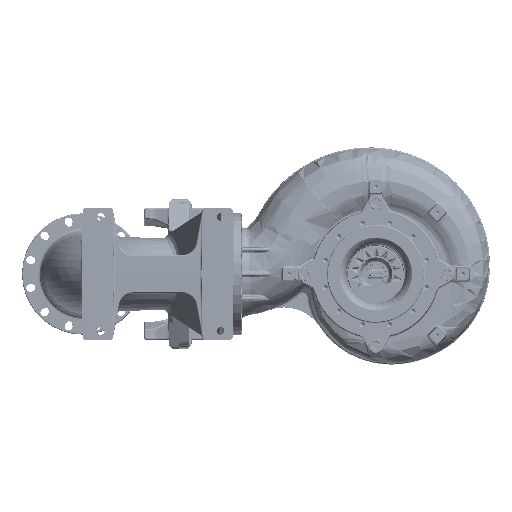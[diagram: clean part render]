
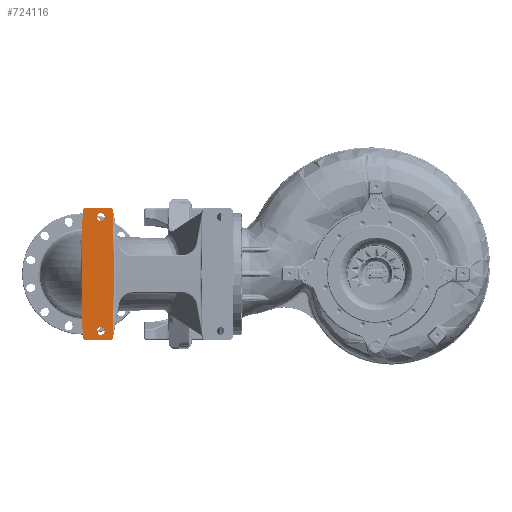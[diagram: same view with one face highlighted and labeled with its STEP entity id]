
A CAD part, front view. The second image highlights one B-rep face of the part: STEP entity #724116.
In plain terms, the highlighted planar face has unit normal (0, -1, 0).
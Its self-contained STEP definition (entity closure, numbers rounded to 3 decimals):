
#552 = VERTEX_POINT ( 'NONE', #439681 ) ;
#1557 = EDGE_CURVE ( 'NONE', #683720, #169561, #188806, .T. ) ;
#25178 = CARTESIAN_POINT ( 'NONE',  ( -981.84, -739.47, 0. ) ) ;
#31913 = ORIENTED_EDGE ( 'NONE', *, *, #103475, .F. ) ;
#35269 = EDGE_LOOP ( 'NONE', ( #527707, #645454, #176286, #305124, #220882, #248191, #546777, #732189, #31913, #131124, #527130, #182408 ) ) ;
#39459 = DIRECTION ( 'NONE',  ( 0., 0., -1. ) ) ;
#39964 = FACE_BOUND ( 'NONE', #593363, .T. ) ;
#44718 = EDGE_CURVE ( 'NONE', #483065, #634899, #685150, .T. ) ;
#57190 = CARTESIAN_POINT ( 'NONE',  ( -918., -739.47, 203. ) ) ;
#57427 = CARTESIAN_POINT ( 'NONE',  ( -886.391, -739.47, -210. ) ) ;
#60706 = DIRECTION ( 'NONE',  ( -0.017, 0., 1. ) ) ;
#64858 = DIRECTION ( 'NONE',  ( -1., 0., 0. ) ) ;
#67296 = FACE_BOUND ( 'NONE', #484511, .T. ) ;
#72634 = CIRCLE ( 'NONE', #309573, 10. ) ;
#76412 = VERTEX_POINT ( 'NONE', #676173 ) ;
#76586 = VERTEX_POINT ( 'NONE', #700811 ) ;
#84986 = CIRCLE ( 'NONE', #193774, 13. ) ;
#87022 = EDGE_CURVE ( 'NONE', #679794, #169561, #671736, .T. ) ;
#92100 = DIRECTION ( 'NONE',  ( 0., 0., -1. ) ) ;
#92392 = DIRECTION ( 'NONE',  ( 0., -1., 0. ) ) ;
#93205 = CARTESIAN_POINT ( 'NONE',  ( -918., -739.47, -190. ) ) ;
#103475 = EDGE_CURVE ( 'NONE', #634899, #579004, #442016, .T. ) ;
#115703 = VECTOR ( 'NONE', #538777, 1000. ) ;
#119013 = DIRECTION ( 'NONE',  ( 0., 0., -1. ) ) ;
#120156 = DIRECTION ( 'NONE',  ( 0., -1., 0. ) ) ;
#131124 = ORIENTED_EDGE ( 'NONE', *, *, #44718, .F. ) ;
#131177 = CARTESIAN_POINT ( 'NONE',  ( -874.16, -739.47, 0. ) ) ;
#132093 = EDGE_CURVE ( 'NONE', #537453, #76586, #196211, .T. ) ;
#136021 = VERTEX_POINT ( 'NONE', #57190 ) ;
#137157 = EDGE_CURVE ( 'NONE', #197577, #579004, #526079, .T. ) ;
#141559 = LINE ( 'NONE', #597812, #663716 ) ;
#145225 = DIRECTION ( 'NONE',  ( 0., -1., 0. ) ) ;
#157535 = AXIS2_PLACEMENT_3D ( 'NONE', #289848, #463579, #119013 ) ;
#160529 = DIRECTION ( 'NONE',  ( 0., 0., -1. ) ) ;
#169561 = VERTEX_POINT ( 'NONE', #620907 ) ;
#173570 = ORIENTED_EDGE ( 'NONE', *, *, #410864, .F. ) ;
#176286 = ORIENTED_EDGE ( 'NONE', *, *, #1557, .F. ) ;
#182115 = ORIENTED_EDGE ( 'NONE', *, *, #464795, .F. ) ;
#182408 = ORIENTED_EDGE ( 'NONE', *, *, #579887, .F. ) ;
#188806 = LINE ( 'NONE', #211156, #702488 ) ;
#193774 = AXIS2_PLACEMENT_3D ( 'NONE', #391855, #220686, #160529 ) ;
#193894 = CARTESIAN_POINT ( 'NONE',  ( -978., -739.47, 220. ) ) ;
#194204 = LINE ( 'NONE', #283680, #572588 ) ;
#196211 = CIRCLE ( 'NONE', #454482, 13. ) ;
#196934 = ORIENTED_EDGE ( 'NONE', *, *, #132093, .F. ) ;
#197577 = VERTEX_POINT ( 'NONE', #358968 ) ;
#197909 = PLANE ( 'NONE',  #240950 ) ;
#198031 = CARTESIAN_POINT ( 'NONE',  ( -877.889, -739.47, 213.656 ) ) ;
#200887 = DIRECTION ( 'NONE',  ( 0.017, 0., 1. ) ) ;
#202912 = ORIENTED_EDGE ( 'NONE', *, *, #691989, .F. ) ;
#210729 = FACE_OUTER_BOUND ( 'NONE', #35269, .T. ) ;
#211156 = CARTESIAN_POINT ( 'NONE',  ( -878., -739.47, -220. ) ) ;
#220686 = DIRECTION ( 'NONE',  ( 0., -1., 0. ) ) ;
#220882 = ORIENTED_EDGE ( 'NONE', *, *, #414515, .T. ) ;
#227210 = CARTESIAN_POINT ( 'NONE',  ( -886.391, -739.47, 210. ) ) ;
#234515 = CARTESIAN_POINT ( 'NONE',  ( -918., -739.47, -190. ) ) ;
#240950 = AXIS2_PLACEMENT_3D ( 'NONE', #658752, #92392, #666200 ) ;
#248191 = ORIENTED_EDGE ( 'NONE', *, *, #599369, .T. ) ;
#261311 = AXIS2_PLACEMENT_3D ( 'NONE', #263097, #666107, #39459 ) ;
#263097 = CARTESIAN_POINT ( 'NONE',  ( -918., -739.47, 190. ) ) ;
#269686 = CIRCLE ( 'NONE', #488480, 10. ) ;
#283680 = CARTESIAN_POINT ( 'NONE',  ( -878., -739.47, -220. ) ) ;
#286544 = LINE ( 'NONE', #193894, #115703 ) ;
#289848 = CARTESIAN_POINT ( 'NONE',  ( -882.888, -739.47, 213.568 ) ) ;
#291589 = EDGE_CURVE ( 'NONE', #335931, #679794, #269686, .T. ) ;
#292392 = DIRECTION ( 'NONE',  ( 0., -1., 0. ) ) ;
#305124 = ORIENTED_EDGE ( 'NONE', *, *, #401700, .F. ) ;
#309573 = AXIS2_PLACEMENT_3D ( 'NONE', #227210, #680719, #630071 ) ;
#313699 = CIRCLE ( 'NONE', #351049, 10. ) ;
#335931 = VERTEX_POINT ( 'NONE', #721222 ) ;
#351049 = AXIS2_PLACEMENT_3D ( 'NONE', #663637, #145225, #721627 ) ;
#352970 = CARTESIAN_POINT ( 'NONE',  ( -918., -739.47, -203. ) ) ;
#358968 = CARTESIAN_POINT ( 'NONE',  ( -968.173, -739.47, 220. ) ) ;
#371499 = DIRECTION ( 'NONE',  ( 0., 0., -1. ) ) ;
#384994 = CIRCLE ( 'NONE', #553725, 13. ) ;
#391855 = CARTESIAN_POINT ( 'NONE',  ( -918., -739.47, 190. ) ) ;
#401700 = EDGE_CURVE ( 'NONE', #501281, #683720, #141559, .T. ) ;
#410864 = EDGE_CURVE ( 'NONE', #136021, #637730, #84986, .T. ) ;
#414515 = EDGE_CURVE ( 'NONE', #501281, #76412, #488352, .T. ) ;
#426995 = CARTESIAN_POINT ( 'NONE',  ( -968.173, -739.47, 210. ) ) ;
#439681 = CARTESIAN_POINT ( 'NONE',  ( -886.391, -739.47, 220. ) ) ;
#442016 = LINE ( 'NONE', #25178, #720988 ) ;
#450248 = DIRECTION ( 'NONE',  ( 0., 0., -1. ) ) ;
#454482 = AXIS2_PLACEMENT_3D ( 'NONE', #234515, #292392, #743515 ) ;
#463579 = DIRECTION ( 'NONE',  ( 0., -1., 0. ) ) ;
#463899 = CIRCLE ( 'NONE', #261311, 13. ) ;
#464795 = EDGE_CURVE ( 'NONE', #76586, #537453, #384994, .T. ) ;
#465139 = VERTEX_POINT ( 'NONE', #688827 ) ;
#475025 = CARTESIAN_POINT ( 'NONE',  ( -978.172, -739.47, -210.175 ) ) ;
#477377 = DIRECTION ( 'NONE',  ( 0., -1., 0. ) ) ;
#479453 = DIRECTION ( 'NONE',  ( 0.017, 0., -1. ) ) ;
#483065 = VERTEX_POINT ( 'NONE', #475025 ) ;
#484511 = EDGE_LOOP ( 'NONE', ( #196934, #182115 ) ) ;
#488352 = CIRCLE ( 'NONE', #157535, 5. ) ;
#488480 = AXIS2_PLACEMENT_3D ( 'NONE', #57427, #120156, #747047 ) ;
#501281 = VERTEX_POINT ( 'NONE', #198031 ) ;
#511073 = CARTESIAN_POINT ( 'NONE',  ( -978., -739.47, -220. ) ) ;
#521676 = EDGE_CURVE ( 'NONE', #483065, #465139, #313699, .T. ) ;
#521802 = CARTESIAN_POINT ( 'NONE',  ( -918., -739.47, 177. ) ) ;
#526079 = CIRCLE ( 'NONE', #675123, 10. ) ;
#527130 = ORIENTED_EDGE ( 'NONE', *, *, #521676, .T. ) ;
#527707 = ORIENTED_EDGE ( 'NONE', *, *, #291589, .T. ) ;
#537265 = DIRECTION ( 'NONE',  ( 0., -1., 0. ) ) ;
#537453 = VERTEX_POINT ( 'NONE', #352970 ) ;
#538777 = DIRECTION ( 'NONE',  ( 1., 0., 0. ) ) ;
#542311 = EDGE_CURVE ( 'NONE', #197577, #552, #286544, .T. ) ;
#546777 = ORIENTED_EDGE ( 'NONE', *, *, #542311, .F. ) ;
#553725 = AXIS2_PLACEMENT_3D ( 'NONE', #93205, #626356, #450248 ) ;
#572588 = VECTOR ( 'NONE', #64858, 1000. ) ;
#574064 = CARTESIAN_POINT ( 'NONE',  ( -978.172, -739.47, 210.175 ) ) ;
#579004 = VERTEX_POINT ( 'NONE', #574064 ) ;
#579887 = EDGE_CURVE ( 'NONE', #335931, #465139, #194204, .T. ) ;
#593111 = CARTESIAN_POINT ( 'NONE',  ( -981.84, -739.47, 0. ) ) ;
#593363 = EDGE_LOOP ( 'NONE', ( #202912, #173570 ) ) ;
#597812 = CARTESIAN_POINT ( 'NONE',  ( -878., -739.47, 220. ) ) ;
#599369 = EDGE_CURVE ( 'NONE', #76412, #552, #72634, .T. ) ;
#620907 = CARTESIAN_POINT ( 'NONE',  ( -877.889, -739.47, -213.656 ) ) ;
#626356 = DIRECTION ( 'NONE',  ( 0., -1., 0. ) ) ;
#630071 = DIRECTION ( 'NONE',  ( 0., 0., -1. ) ) ;
#634899 = VERTEX_POINT ( 'NONE', #593111 ) ;
#637730 = VERTEX_POINT ( 'NONE', #521802 ) ;
#639330 = CARTESIAN_POINT ( 'NONE',  ( -879.386, -739.47, -217.137 ) ) ;
#645454 = ORIENTED_EDGE ( 'NONE', *, *, #87022, .T. ) ;
#658752 = CARTESIAN_POINT ( 'NONE',  ( -870.32, -739.47, -220. ) ) ;
#663637 = CARTESIAN_POINT ( 'NONE',  ( -968.173, -739.47, -210. ) ) ;
#663716 = VECTOR ( 'NONE', #479453, 1000. ) ;
#665907 = CARTESIAN_POINT ( 'NONE',  ( -882.888, -739.47, -213.568 ) ) ;
#666107 = DIRECTION ( 'NONE',  ( 0., -1., 0. ) ) ;
#666200 = DIRECTION ( 'NONE',  ( 0., 0., -1. ) ) ;
#671736 = CIRCLE ( 'NONE', #705809, 5. ) ;
#675123 = AXIS2_PLACEMENT_3D ( 'NONE', #426995, #477377, #371499 ) ;
#676173 = CARTESIAN_POINT ( 'NONE',  ( -879.386, -739.47, 217.137 ) ) ;
#679794 = VERTEX_POINT ( 'NONE', #639330 ) ;
#680719 = DIRECTION ( 'NONE',  ( 0., -1., 0. ) ) ;
#683720 = VERTEX_POINT ( 'NONE', #131177 ) ;
#685150 = LINE ( 'NONE', #511073, #694450 ) ;
#688827 = CARTESIAN_POINT ( 'NONE',  ( -968.173, -739.47, -220. ) ) ;
#691989 = EDGE_CURVE ( 'NONE', #637730, #136021, #463899, .T. ) ;
#694450 = VECTOR ( 'NONE', #60706, 1000. ) ;
#700811 = CARTESIAN_POINT ( 'NONE',  ( -918., -739.47, -177. ) ) ;
#702488 = VECTOR ( 'NONE', #734947, 1000. ) ;
#705809 = AXIS2_PLACEMENT_3D ( 'NONE', #665907, #537265, #92100 ) ;
#720988 = VECTOR ( 'NONE', #200887, 1000. ) ;
#721222 = CARTESIAN_POINT ( 'NONE',  ( -886.391, -739.47, -220. ) ) ;
#721627 = DIRECTION ( 'NONE',  ( 0., 0., -1. ) ) ;
#724116 = ADVANCED_FACE ( 'NONE', ( #39964, #67296, #210729 ), #197909, .T. ) ;
#732189 = ORIENTED_EDGE ( 'NONE', *, *, #137157, .T. ) ;
#734947 = DIRECTION ( 'NONE',  ( -0.017, 0., -1. ) ) ;
#743515 = DIRECTION ( 'NONE',  ( 0., 0., -1. ) ) ;
#747047 = DIRECTION ( 'NONE',  ( 0., 0., -1. ) ) ;
